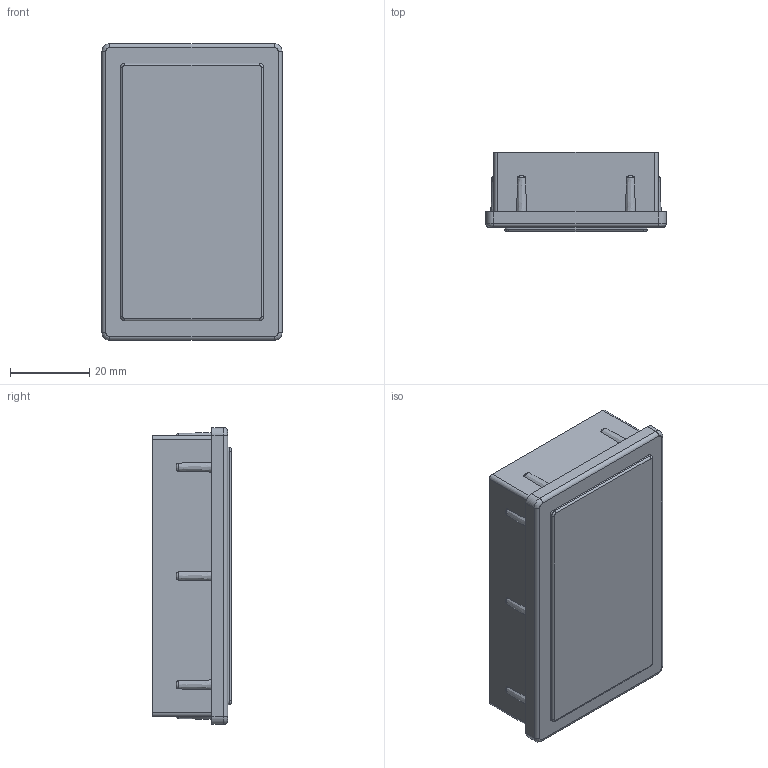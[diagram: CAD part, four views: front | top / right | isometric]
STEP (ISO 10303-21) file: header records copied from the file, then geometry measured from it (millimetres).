
FILE_DESCRIPTION(/* description */ (''),/* implementation_level */ '2;1');
FILE_NAME(/* name */ '\\NAS\db20\PR4-4575\DR_PR4-4575.stp',/* time_stamp */ '2017-09-25T09:55:57+09:00',/* author */ ('user'),/* organization */ (''),/* preprocessor_version */ 'ST-DEVELOPER v15.6',/* originating_system */ 'Autodesk Inventor 2015',/* authorisation */ '');
FILE_SCHEMA (('AUTOMOTIVE_DESIGN { 1 0 10303 214 3 1 1 }'));
Length unit declared in the file: millimetre
Products named in the file (1): DR_PR4-4575
Bounding box: 45.5 x 20 x 75 mm (x, y, z)
Volume: 30074.5 mm3; surface area: 20057.5 mm2
Topology: 2 solids, 2 shells, 90 faces, 206 edges, 132 vertices
Faces by surface type: plane 42, bspline 28, cylinder 20
Entity records: 3325 total; most frequent: CARTESIAN_POINT 1413, ORIENTED_EDGE 412, DIRECTION 330, EDGE_CURVE 206, VERTEX_POINT 132, AXIS2_PLACEMENT_3D 111, LINE 108, VECTOR 108
